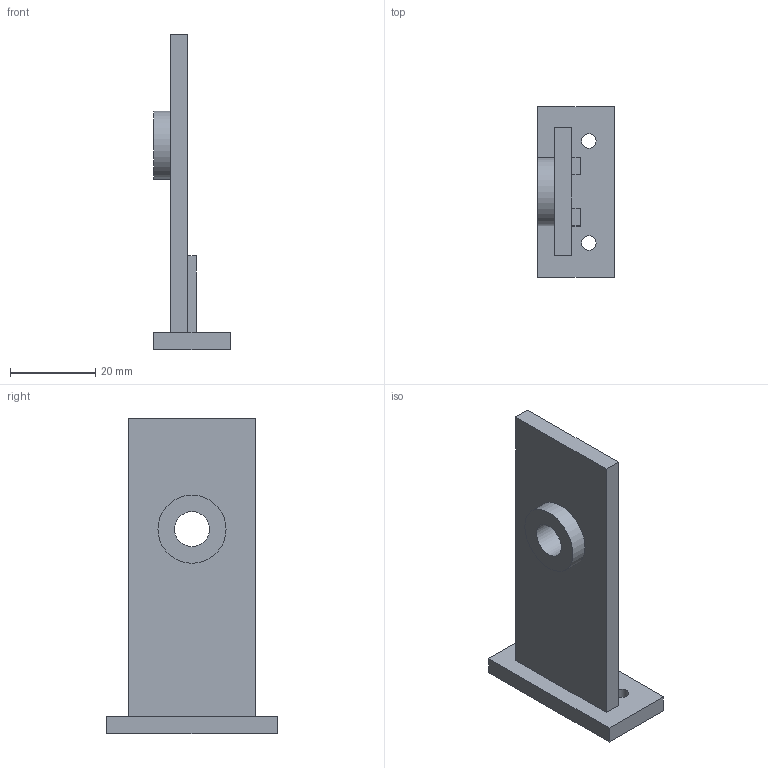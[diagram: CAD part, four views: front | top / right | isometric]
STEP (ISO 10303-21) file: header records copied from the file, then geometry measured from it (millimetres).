
FILE_DESCRIPTION(('FreeCAD Model'),'2;1');
FILE_NAME('Open CASCADE Shape Model','2026-11-07T00:59:45',('FreeCAD'),( 'FreeCAD'),'Open CASCADE STEP processor 7.8','FreeCAD','Unknown');
FILE_SCHEMA(('AUTOMOTIVE_DESIGN { 1 0 10303 214 1 1 1 1 }'));
Length unit declared in the file: millimetre
Products named in the file (1): Open CASCADE STEP translator 7.8 5
Bounding box: 18 x 40 x 74 mm (x, y, z)
Volume: 11877.1 mm3; surface area: 7158.7 mm2
Topology: 1 solids, 1 shells, 24 faces, 60 edges, 40 vertices
Faces by surface type: plane 20, cylinder 4
Full cylindrical faces by diameter (mm): 3.4 x2, 8.2 x1, 16 x1
Entity records: 734 total; most frequent: CARTESIAN_POINT 125, ORIENTED_EDGE 120, DIRECTION 118, EDGE_CURVE 60, LINE 52, VECTOR 52, VERTEX_POINT 40, AXIS2_PLACEMENT_3D 33
